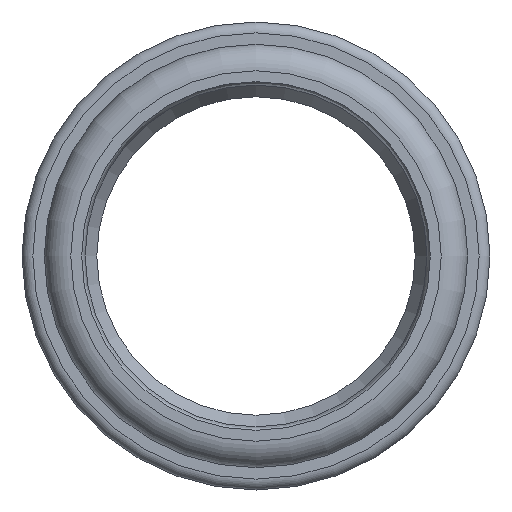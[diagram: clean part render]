
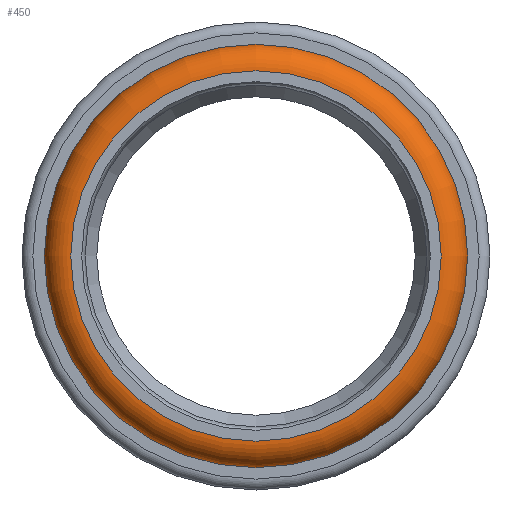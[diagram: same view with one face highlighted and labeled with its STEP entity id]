
A CAD part, left-side view. The second image highlights one B-rep face of the part: STEP entity #450.
In plain terms, the highlighted toroidal (fillet/blend) face has major radius 34.9 mm and minor radius 5 mm.
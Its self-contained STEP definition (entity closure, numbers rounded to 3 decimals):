
#416=CARTESIAN_POINT('',(-88.0,34.9,0.0));
#417=VERTEX_POINT('',#416);
#418=CARTESIAN_POINT('',(-88.0,0.,0.0));
#419=DIRECTION('',(1.0,0.0,0.0));
#420=DIRECTION('',(0.0,1.0,0.0));
#421=AXIS2_PLACEMENT_3D('',#418,#419,#420);
#422=CIRCLE('',#421,34.9);
#423=EDGE_CURVE('',#417,#417,#422,.T.);
#431=CARTESIAN_POINT('',(-83.0,0.,0.0));
#432=DIRECTION('',(1.0,0.,0.0));
#433=DIRECTION('',(0.0,0.0,-1.0));
#434=AXIS2_PLACEMENT_3D('',#431,#432,#433);
#435=TOROIDAL_SURFACE('',#434,34.9,5.);
#436=CARTESIAN_POINT('',(-79.464,38.436,0.0));
#437=VERTEX_POINT('',#436);
#438=CARTESIAN_POINT('',(-79.464,0.,0.0));
#439=DIRECTION('',(1.0,0.0,0.0));
#440=DIRECTION('',(0.0,1.0,0.0));
#441=AXIS2_PLACEMENT_3D('',#438,#439,#440);
#442=CIRCLE('',#441,38.436);
#443=EDGE_CURVE('',#437,#437,#442,.T.);
#444=ORIENTED_EDGE('',*,*,#443,.F.);
#445=EDGE_LOOP('',(#444));
#446=FACE_OUTER_BOUND('',#445,.T.);
#447=ORIENTED_EDGE('',*,*,#423,.T.);
#448=EDGE_LOOP('',(#447));
#449=FACE_BOUND('',#448,.T.);
#450=ADVANCED_FACE('',(#446,#449),#435,.T.);
